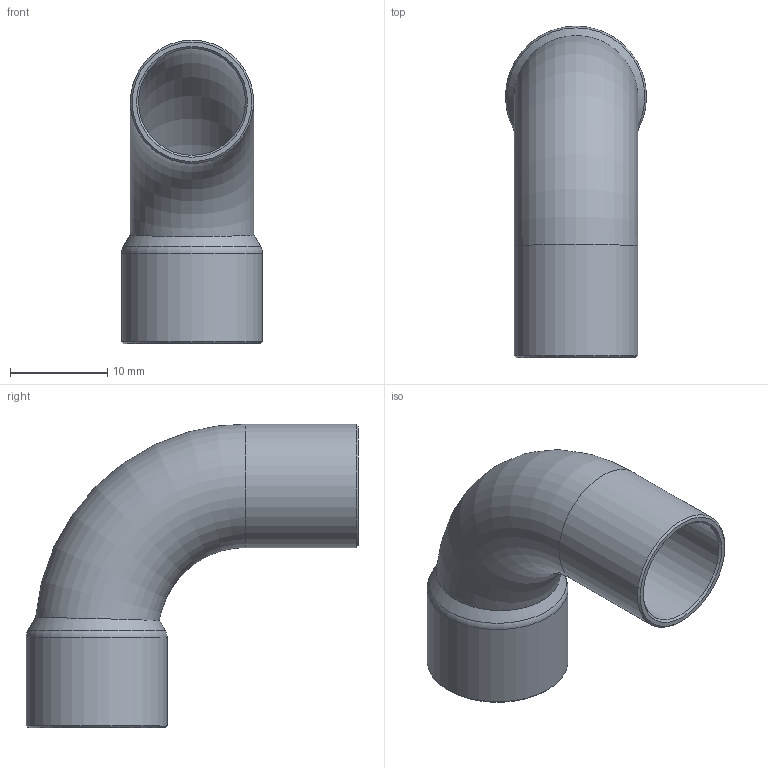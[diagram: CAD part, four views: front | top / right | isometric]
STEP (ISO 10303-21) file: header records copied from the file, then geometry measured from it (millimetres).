
FILE_DESCRIPTION((''),'2;1');
FILE_NAME('G:\SANHA-Ternat\Technik\Management\Bouwmaten + markeringen\z-maattekeningen 3D\29000s\29001A12_3d.stp','2017-07-26T09:48:09',('vdvijverd'),(''),'Autodesk Inventor 2009','Autodesk Inventor 2009','');
FILE_SCHEMA(('AUTOMOTIVE_DESIGN { 1 0 10303 214 1 1 1 1 }'));
Length unit declared in the file: millimetre
Products named in the file (1): 29001A12_3d
Bounding box: 14.52 x 34.16 x 31.25 mm (x, y, z)
Volume: 1486.1 mm3; surface area: 3553.5 mm2
Topology: 1 solids, 1 shells, 16 faces, 33 edges, 19 vertices
Faces by surface type: cone 6, cylinder 4, torus 3, plane 2, bspline 1
Full cylindrical faces by diameter (mm): 11 x1, 12.7 x1, 12.82 x1, 14.52 x1
Entity records: 460 total; most frequent: CARTESIAN_POINT 165, DIRECTION 60, ORIENTED_EDGE 32, EDGE_LOOP 32, AXIS2_PLACEMENT_3D 30, VERTEX_POINT 16, EDGE_CURVE 16, FACE_OUTER_BOUND 16
